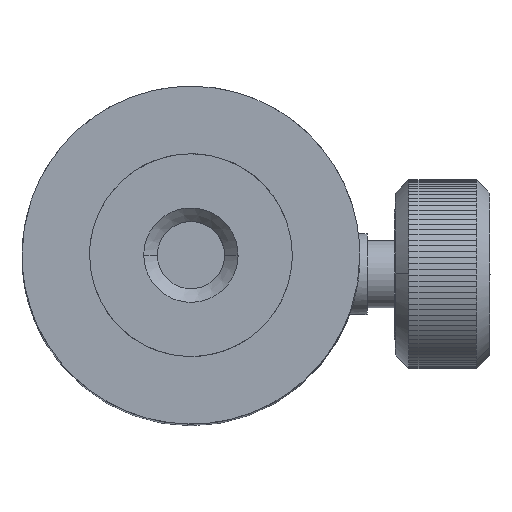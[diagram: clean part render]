
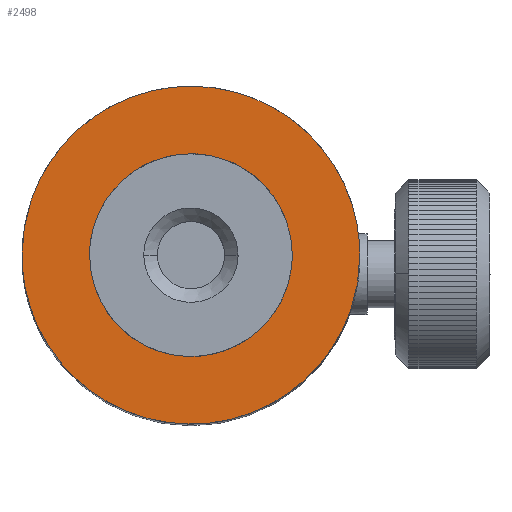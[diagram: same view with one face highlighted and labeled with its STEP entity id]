
A CAD part, top view. The second image highlights one B-rep face of the part: STEP entity #2498.
In plain terms, the highlighted planar face has unit normal (0, 0, 1).
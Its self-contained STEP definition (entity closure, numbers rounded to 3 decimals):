
#2160 = EDGE_CURVE ( 'NONE', #2161, #2162, #10688, .T. ) ;
#2161 = VERTEX_POINT ( 'NONE', #10687 ) ;
#2162 = VERTEX_POINT ( 'NONE', #10689 ) ;
#2498 = ADVANCED_FACE ( 'NONE', ( #11572, #11571 ), #11570, .F. ) ;
#2499 = EDGE_LOOP ( 'NONE', ( #2500, #2501 ) ) ;
#2500 = ORIENTED_EDGE ( 'NONE', *, *, #2160, .F. ) ;
#2501 = ORIENTED_EDGE ( 'NONE', *, *, #2502, .F. ) ;
#2502 = EDGE_CURVE ( 'NONE', #2162, #2161, #11563, .T. ) ;
#2503 = EDGE_LOOP ( 'NONE', ( #2504, #2505 ) ) ;
#2504 = ORIENTED_EDGE ( 'NONE', *, *, #2509, .F. ) ;
#2505 = ORIENTED_EDGE ( 'NONE', *, *, #3054, .F. ) ;
#2509 = EDGE_CURVE ( 'NONE', #3117, #2992, #11609, .T. ) ;
#2992 = VERTEX_POINT ( 'NONE', #13140 ) ;
#3054 = EDGE_CURVE ( 'NONE', #2992, #3117, #13374, .T. ) ;
#3117 = VERTEX_POINT ( 'NONE', #13578 ) ;
#10667 = CARTESIAN_POINT ( 'NONE',  ( 36.5, 0., 76.2 ) ) ;
#10668 = CARTESIAN_POINT ( 'NONE',  ( 36.5, 1.636, 76.2 ) ) ;
#10669 = CARTESIAN_POINT ( 'NONE',  ( 36.175, 3.272, 76.2 ) ) ;
#10670 = CARTESIAN_POINT ( 'NONE',  ( 34.922, 6.295, 76.2 ) ) ;
#10671 = CARTESIAN_POINT ( 'NONE',  ( 33.996, 7.682, 76.2 ) ) ;
#10672 = CARTESIAN_POINT ( 'NONE',  ( 31.682, 9.996, 76.2 ) ) ;
#10673 = CARTESIAN_POINT ( 'NONE',  ( 30.295, 10.922, 76.2 ) ) ;
#10674 = CARTESIAN_POINT ( 'NONE',  ( 27.272, 12.175, 76.2 ) ) ;
#10675 = CARTESIAN_POINT ( 'NONE',  ( 25.636, 12.5, 76.2 ) ) ;
#10676 = CARTESIAN_POINT ( 'NONE',  ( 22.364, 12.5, 76.2 ) ) ;
#10677 = CARTESIAN_POINT ( 'NONE',  ( 20.728, 12.175, 76.2 ) ) ;
#10678 = CARTESIAN_POINT ( 'NONE',  ( 17.705, 10.922, 76.2 ) ) ;
#10679 = CARTESIAN_POINT ( 'NONE',  ( 16.318, 9.996, 76.2 ) ) ;
#10680 = CARTESIAN_POINT ( 'NONE',  ( 14.004, 7.682, 76.2 ) ) ;
#10681 = CARTESIAN_POINT ( 'NONE',  ( 13.078, 6.295, 76.2 ) ) ;
#10682 = CARTESIAN_POINT ( 'NONE',  ( 11.825, 3.272, 76.2 ) ) ;
#10683 = CARTESIAN_POINT ( 'NONE',  ( 11.5, 1.636, 76.2 ) ) ;
#10686 = CARTESIAN_POINT ( 'NONE',  ( 11.5, 0., 76.2 ) ) ;
#10687 = CARTESIAN_POINT ( 'NONE',  ( 11.5, 0., 76.2 ) ) ;
#10688 = B_SPLINE_CURVE_WITH_KNOTS ( 'NONE', 3,
 ( #10686, #10683, #10682, #10681, #10680, #10679, #10678, #10677, #10676, #10675, #10674, #10673, #10672, #10671, #10670, #10669, #10668, #10667 ),
 .UNSPECIFIED., .F., .F.,
 ( 4, 2, 2, 2, 2, 2, 2, 2, 4 ),
 ( 0., 0.125, 0.25, 0.375, 0.5, 0.625, 0.75, 0.875, 1. ),
 .UNSPECIFIED. ) ;
#10689 = CARTESIAN_POINT ( 'NONE',  ( 36.5, 0., 76.2 ) ) ;
#11563 = B_SPLINE_CURVE_WITH_KNOTS ( 'NONE', 3,
 ( #11628, #11627, #11626, #11625, #11624, #11623, #11622, #11621, #11620, #11619, #11618, #11617, #11616, #11615, #11614, #11613, #11612, #11611 ),
 .UNSPECIFIED., .F., .F.,
 ( 4, 2, 2, 2, 2, 2, 2, 2, 4 ),
 ( 0., 0.125, 0.25, 0.375, 0.5, 0.625, 0.75, 0.875, 1. ),
 .UNSPECIFIED. ) ;
#11566 = DIRECTION ( 'NONE',  ( -1., 0., 0. ) ) ;
#11567 = DIRECTION ( 'NONE',  ( 0., 0., -1. ) ) ;
#11568 = CARTESIAN_POINT ( 'NONE',  ( 24., 0., 76.2 ) ) ;
#11569 = AXIS2_PLACEMENT_3D ( 'NONE', #11568, #11567, #11566 ) ;
#11570 = PLANE ( 'NONE',  #11569 ) ;
#11571 = FACE_BOUND ( 'NONE', #2503, .T. ) ;
#11572 = FACE_OUTER_BOUND ( 'NONE', #2499, .T. ) ;
#11599 = CARTESIAN_POINT ( 'NONE',  ( 29.998, 4.609, 76.2 ) ) ;
#11600 = CARTESIAN_POINT ( 'NONE',  ( 30.553, 3.777, 76.2 ) ) ;
#11601 = CARTESIAN_POINT ( 'NONE',  ( 31.305, 1.963, 76.2 ) ) ;
#11602 = CARTESIAN_POINT ( 'NONE',  ( 31.5, 0.982, 76.2 ) ) ;
#11607 = CARTESIAN_POINT ( 'NONE',  ( 31.5, 0., 76.2 ) ) ;
#11609 = B_SPLINE_CURVE_WITH_KNOTS ( 'NONE', 3,
 ( #11607, #11602, #11601, #11600, #11599, #11671, #11670, #11669, #11668, #11667, #11666, #11665, #11664, #11663, #11662, #11661, #11660, #11659 ),
 .UNSPECIFIED., .F., .F.,
 ( 4, 2, 2, 2, 2, 2, 2, 2, 4 ),
 ( 0., 0.125, 0.25, 0.375, 0.5, 0.625, 0.75, 0.875, 1. ),
 .UNSPECIFIED. ) ;
#11611 = CARTESIAN_POINT ( 'NONE',  ( 11.5, 0., 76.2 ) ) ;
#11612 = CARTESIAN_POINT ( 'NONE',  ( 11.5, -1.636, 76.2 ) ) ;
#11613 = CARTESIAN_POINT ( 'NONE',  ( 11.825, -3.272, 76.2 ) ) ;
#11614 = CARTESIAN_POINT ( 'NONE',  ( 13.078, -6.295, 76.2 ) ) ;
#11615 = CARTESIAN_POINT ( 'NONE',  ( 14.004, -7.682, 76.2 ) ) ;
#11616 = CARTESIAN_POINT ( 'NONE',  ( 16.318, -9.996, 76.2 ) ) ;
#11617 = CARTESIAN_POINT ( 'NONE',  ( 17.705, -10.922, 76.2 ) ) ;
#11618 = CARTESIAN_POINT ( 'NONE',  ( 20.728, -12.175, 76.2 ) ) ;
#11619 = CARTESIAN_POINT ( 'NONE',  ( 22.364, -12.5, 76.2 ) ) ;
#11620 = CARTESIAN_POINT ( 'NONE',  ( 25.636, -12.5, 76.2 ) ) ;
#11621 = CARTESIAN_POINT ( 'NONE',  ( 27.272, -12.175, 76.2 ) ) ;
#11622 = CARTESIAN_POINT ( 'NONE',  ( 30.295, -10.922, 76.2 ) ) ;
#11623 = CARTESIAN_POINT ( 'NONE',  ( 31.682, -9.996, 76.2 ) ) ;
#11624 = CARTESIAN_POINT ( 'NONE',  ( 33.996, -7.682, 76.2 ) ) ;
#11625 = CARTESIAN_POINT ( 'NONE',  ( 34.922, -6.295, 76.2 ) ) ;
#11626 = CARTESIAN_POINT ( 'NONE',  ( 36.175, -3.272, 76.2 ) ) ;
#11627 = CARTESIAN_POINT ( 'NONE',  ( 36.5, -1.636, 76.2 ) ) ;
#11628 = CARTESIAN_POINT ( 'NONE',  ( 36.5, 0., 76.2 ) ) ;
#11659 = CARTESIAN_POINT ( 'NONE',  ( 16.5, 0., 76.2 ) ) ;
#11660 = CARTESIAN_POINT ( 'NONE',  ( 16.5, 0.982, 76.2 ) ) ;
#11661 = CARTESIAN_POINT ( 'NONE',  ( 16.695, 1.963, 76.2 ) ) ;
#11662 = CARTESIAN_POINT ( 'NONE',  ( 17.447, 3.777, 76.2 ) ) ;
#11663 = CARTESIAN_POINT ( 'NONE',  ( 18.002, 4.609, 76.2 ) ) ;
#11664 = CARTESIAN_POINT ( 'NONE',  ( 19.391, 5.998, 76.2 ) ) ;
#11665 = CARTESIAN_POINT ( 'NONE',  ( 20.223, 6.553, 76.2 ) ) ;
#11666 = CARTESIAN_POINT ( 'NONE',  ( 22.037, 7.305, 76.2 ) ) ;
#11667 = CARTESIAN_POINT ( 'NONE',  ( 23.018, 7.5, 76.2 ) ) ;
#11668 = CARTESIAN_POINT ( 'NONE',  ( 24.982, 7.5, 76.2 ) ) ;
#11669 = CARTESIAN_POINT ( 'NONE',  ( 25.963, 7.305, 76.2 ) ) ;
#11670 = CARTESIAN_POINT ( 'NONE',  ( 27.777, 6.553, 76.2 ) ) ;
#11671 = CARTESIAN_POINT ( 'NONE',  ( 28.609, 5.998, 76.2 ) ) ;
#13140 = CARTESIAN_POINT ( 'NONE',  ( 16.5, 0., 76.2 ) ) ;
#13374 = B_SPLINE_CURVE_WITH_KNOTS ( 'NONE', 3,
 ( #13376, #13442, #13441, #13440, #13439, #13438, #13437, #13436, #13435, #13434, #13433, #13432, #13431, #13430, #13429, #13428, #13427, #13426 ),
 .UNSPECIFIED., .F., .F.,
 ( 4, 2, 2, 2, 2, 2, 2, 2, 4 ),
 ( 0., 0.125, 0.25, 0.375, 0.5, 0.625, 0.75, 0.875, 1. ),
 .UNSPECIFIED. ) ;
#13376 = CARTESIAN_POINT ( 'NONE',  ( 16.5, 0., 76.2 ) ) ;
#13426 = CARTESIAN_POINT ( 'NONE',  ( 31.5, 0., 76.2 ) ) ;
#13427 = CARTESIAN_POINT ( 'NONE',  ( 31.5, -0.982, 76.2 ) ) ;
#13428 = CARTESIAN_POINT ( 'NONE',  ( 31.305, -1.963, 76.2 ) ) ;
#13429 = CARTESIAN_POINT ( 'NONE',  ( 30.553, -3.777, 76.2 ) ) ;
#13430 = CARTESIAN_POINT ( 'NONE',  ( 29.998, -4.609, 76.2 ) ) ;
#13431 = CARTESIAN_POINT ( 'NONE',  ( 28.609, -5.998, 76.2 ) ) ;
#13432 = CARTESIAN_POINT ( 'NONE',  ( 27.777, -6.553, 76.2 ) ) ;
#13433 = CARTESIAN_POINT ( 'NONE',  ( 25.963, -7.305, 76.2 ) ) ;
#13434 = CARTESIAN_POINT ( 'NONE',  ( 24.982, -7.5, 76.2 ) ) ;
#13435 = CARTESIAN_POINT ( 'NONE',  ( 23.018, -7.5, 76.2 ) ) ;
#13436 = CARTESIAN_POINT ( 'NONE',  ( 22.037, -7.305, 76.2 ) ) ;
#13437 = CARTESIAN_POINT ( 'NONE',  ( 20.223, -6.553, 76.2 ) ) ;
#13438 = CARTESIAN_POINT ( 'NONE',  ( 19.391, -5.998, 76.2 ) ) ;
#13439 = CARTESIAN_POINT ( 'NONE',  ( 18.002, -4.609, 76.2 ) ) ;
#13440 = CARTESIAN_POINT ( 'NONE',  ( 17.447, -3.777, 76.2 ) ) ;
#13441 = CARTESIAN_POINT ( 'NONE',  ( 16.695, -1.963, 76.2 ) ) ;
#13442 = CARTESIAN_POINT ( 'NONE',  ( 16.5, -0.982, 76.2 ) ) ;
#13578 = CARTESIAN_POINT ( 'NONE',  ( 31.5, 0., 76.2 ) ) ;
